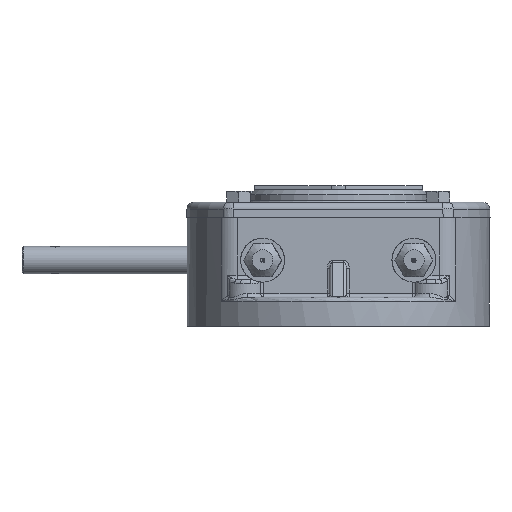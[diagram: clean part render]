
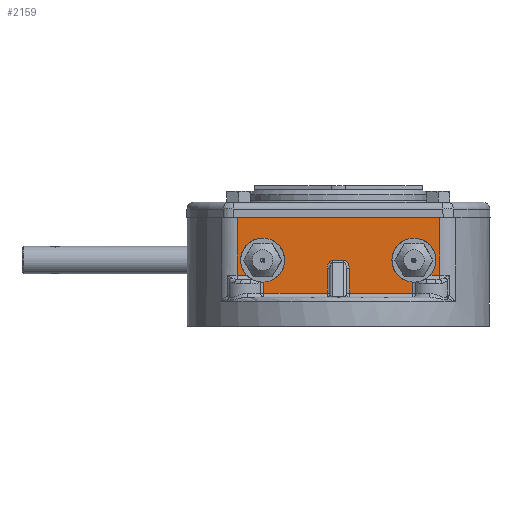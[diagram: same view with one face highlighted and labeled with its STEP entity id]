
A CAD part, left-side view. The second image highlights one B-rep face of the part: STEP entity #2159.
In plain terms, the highlighted planar face has unit normal (-1, 0, 0).
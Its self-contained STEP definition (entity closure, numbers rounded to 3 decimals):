
#2159 = ADVANCED_FACE( '', ( #5709 ), #5710, .F. );
#5709 = FACE_OUTER_BOUND( '', #13355, .T. );
#5710 = PLANE( '', #13356 );
#13355 = EDGE_LOOP( '', ( #36685, #36686, #36687, #36688, #36689, #36690, #36691, #36692, #36693, #36694, #36695, #36696, #36697, #36698, #36699, #36700 ) );
#13356 = AXIS2_PLACEMENT_3D( '', #36701, #36702, #36703 );
#36685 = ORIENTED_EDGE( '', *, *, #49871, .T. );
#36686 = ORIENTED_EDGE( '', *, *, #49137, .F. );
#36687 = ORIENTED_EDGE( '', *, *, #49872, .T. );
#36688 = ORIENTED_EDGE( '', *, *, #49873, .T. );
#36689 = ORIENTED_EDGE( '', *, *, #49874, .T. );
#36690 = ORIENTED_EDGE( '', *, *, #49875, .T. );
#36691 = ORIENTED_EDGE( '', *, *, #49876, .T. );
#36692 = ORIENTED_EDGE( '', *, *, #49877, .F. );
#36693 = ORIENTED_EDGE( '', *, *, #49878, .T. );
#36694 = ORIENTED_EDGE( '', *, *, #49293, .T. );
#36695 = ORIENTED_EDGE( '', *, *, #48950, .T. );
#36696 = ORIENTED_EDGE( '', *, *, #48973, .F. );
#36697 = ORIENTED_EDGE( '', *, *, #49879, .T. );
#36698 = ORIENTED_EDGE( '', *, *, #49880, .F. );
#36699 = ORIENTED_EDGE( '', *, *, #49881, .T. );
#36700 = ORIENTED_EDGE( '', *, *, #49882, .T. );
#36701 = CARTESIAN_POINT( '', ( -75., 80.467, 82. ) );
#36702 = DIRECTION( '', ( 1., 0., 0. ) );
#36703 = DIRECTION( '', ( 0., 0., -1. ) );
#48950 = EDGE_CURVE( '', #54770, #54768, #54771, .F. );
#48973 = EDGE_CURVE( '', #54807, #54768, #54809, .F. );
#49137 = EDGE_CURVE( '', #55099, #55100, #55101, .T. );
#49293 = EDGE_CURVE( '', #55364, #54770, #55365, .T. );
#49871 = EDGE_CURVE( '', #56345, #55100, #56346, .F. );
#49872 = EDGE_CURVE( '', #55099, #56347, #56348, .T. );
#49873 = EDGE_CURVE( '', #56347, #56349, #56350, .F. );
#49874 = EDGE_CURVE( '', #56349, #56351, #56352, .F. );
#49875 = EDGE_CURVE( '', #56351, #54373, #56353, .T. );
#49876 = EDGE_CURVE( '', #54373, #56354, #56355, .T. );
#49877 = EDGE_CURVE( '', #56356, #56354, #56357, .T. );
#49878 = EDGE_CURVE( '', #56356, #55364, #56358, .T. );
#49879 = EDGE_CURVE( '', #54807, #56359, #56360, .F. );
#49880 = EDGE_CURVE( '', #56361, #56359, #56362, .F. );
#49881 = EDGE_CURVE( '', #56361, #56363, #56364, .F. );
#49882 = EDGE_CURVE( '', #56363, #56345, #56365, .T. );
#54373 = VERTEX_POINT( '', #63013 );
#54768 = VERTEX_POINT( '', #63922 );
#54770 = VERTEX_POINT( '', #63924 );
#54771 = LINE( '', #63925, #63926 );
#54807 = VERTEX_POINT( '', #63988 );
#54809 = ELLIPSE( '', #63990, 5.657, 4. );
#55099 = VERTEX_POINT( '', #65275 );
#55100 = VERTEX_POINT( '', #65276 );
#55101 = CIRCLE( '', #65277, 16. );
#55364 = VERTEX_POINT( '', #66207 );
#55365 = LINE( '', #66208, #66209 );
#56345 = VERTEX_POINT( '', #69105 );
#56346 = LINE( '', #69106, #69107 );
#56347 = VERTEX_POINT( '', #69108 );
#56348 = LINE( '', #69109, #69110 );
#56349 = VERTEX_POINT( '', #69111 );
#56350 = LINE( '', #69112, #69113 );
#56351 = VERTEX_POINT( '', #69114 );
#56352 = LINE( '', #69115, #69116 );
#56353 = LINE( '', #69117, #69118 );
#56354 = VERTEX_POINT( '', #69119 );
#56355 = LINE( '', #69120, #69121 );
#56356 = VERTEX_POINT( '', #69122 );
#56357 = CIRCLE( '', #69123, 16. );
#56358 = LINE( '', #69124, #69125 );
#56359 = VERTEX_POINT( '', #69126 );
#56360 = LINE( '', #69127, #69128 );
#56361 = VERTEX_POINT( '', #69129 );
#56362 = ELLIPSE( '', #69130, 5.657, 4. );
#56363 = VERTEX_POINT( '', #69131 );
#56364 = LINE( '', #69132, #69133 );
#56365 = LINE( '', #69134, #69135 );
#63013 = CARTESIAN_POINT( '', ( -75., 73.655, 37. ) );
#63922 = CARTESIAN_POINT( '', ( -75., 8., 42.172 ) );
#63924 = CARTESIAN_POINT( '', ( -75., 8., 24. ) );
#63925 = CARTESIAN_POINT( '', ( -75., 8., 82. ) );
#63926 = VECTOR( '', #86723, 1000. );
#63988 = CARTESIAN_POINT( '', ( -75., 4., 47.828 ) );
#63990 = AXIS2_PLACEMENT_3D( '', #86758, #86759, #86760 );
#65275 = CARTESIAN_POINT( '', ( -75., -66.619, 37. ) );
#65276 = CARTESIAN_POINT( '', ( -75., -54.1, 32.025 ) );
#65277 = AXIS2_PLACEMENT_3D( '', #86929, #86930, #86931 );
#66207 = CARTESIAN_POINT( '', ( -75., 54.1, 24. ) );
#66208 = CARTESIAN_POINT( '', ( -75., 80.467, 24. ) );
#66209 = VECTOR( '', #87084, 1000. );
#69105 = CARTESIAN_POINT( '', ( -75., -54.1, 24. ) );
#69106 = CARTESIAN_POINT( '', ( -75., -54.1, 82. ) );
#69107 = VECTOR( '', #87712, 1000. );
#69108 = CARTESIAN_POINT( '', ( -75., -73.655, 37. ) );
#69109 = CARTESIAN_POINT( '', ( -75., -73.655, 37. ) );
#69110 = VECTOR( '', #87713, 1000. );
#69111 = CARTESIAN_POINT( '', ( -75., -73.655, 79. ) );
#69112 = CARTESIAN_POINT( '', ( -75., -73.655, 82. ) );
#69113 = VECTOR( '', #87714, 1000. );
#69114 = CARTESIAN_POINT( '', ( -75., 73.655, 79. ) );
#69115 = CARTESIAN_POINT( '', ( -75., 73.655, 79. ) );
#69116 = VECTOR( '', #87715, 1000. );
#69117 = CARTESIAN_POINT( '', ( -75., 73.655, 82. ) );
#69118 = VECTOR( '', #87716, 1000. );
#69119 = CARTESIAN_POINT( '', ( -75., 66.619, 37. ) );
#69120 = CARTESIAN_POINT( '', ( -75., 55.626, 37. ) );
#69121 = VECTOR( '', #87717, 1000. );
#69122 = CARTESIAN_POINT( '', ( -75., 54.1, 32.025 ) );
#69123 = AXIS2_PLACEMENT_3D( '', #87718, #87719, #87720 );
#69124 = CARTESIAN_POINT( '', ( -75., 54.1, 82. ) );
#69125 = VECTOR( '', #87721, 1000. );
#69126 = CARTESIAN_POINT( '', ( -75., -4., 47.828 ) );
#69127 = CARTESIAN_POINT( '', ( -75., -6., 47.828 ) );
#69128 = VECTOR( '', #87722, 1000. );
#69129 = CARTESIAN_POINT( '', ( -75., -8., 42.172 ) );
#69130 = AXIS2_PLACEMENT_3D( '', #87723, #87724, #87725 );
#69131 = CARTESIAN_POINT( '', ( -75., -8., 24. ) );
#69132 = CARTESIAN_POINT( '', ( -75., -8., 24. ) );
#69133 = VECTOR( '', #87726, 1000. );
#69134 = CARTESIAN_POINT( '', ( -75., 80.467, 24. ) );
#69135 = VECTOR( '', #87727, 1000. );
#86723 = DIRECTION( '', ( 0., 0., -1. ) );
#86758 = CARTESIAN_POINT( '', ( -75., 4., 42.172 ) );
#86759 = DIRECTION( '', ( 1., 0., 0. ) );
#86760 = DIRECTION( '', ( 0., 0., 1. ) );
#86929 = CARTESIAN_POINT( '', ( -75., -55., 48. ) );
#86930 = DIRECTION( '', ( -1., 0., 0. ) );
#86931 = DIRECTION( '', ( 0., 0., 1. ) );
#87084 = DIRECTION( '', ( 0., -1., 0. ) );
#87712 = DIRECTION( '', ( 0., 0., -1. ) );
#87713 = DIRECTION( '', ( 0., -1., 0. ) );
#87714 = DIRECTION( '', ( 0., 0., -1. ) );
#87715 = DIRECTION( '', ( 0., -1., 0. ) );
#87716 = DIRECTION( '', ( 0., 0., -1. ) );
#87717 = DIRECTION( '', ( 0., -1., 0. ) );
#87718 = CARTESIAN_POINT( '', ( -75., 55., 48. ) );
#87719 = DIRECTION( '', ( -1., 0., 0. ) );
#87720 = DIRECTION( '', ( 0., 0., 1. ) );
#87721 = DIRECTION( '', ( 0., 0., -1. ) );
#87722 = DIRECTION( '', ( 0., 1., 0. ) );
#87723 = CARTESIAN_POINT( '', ( -75., -4., 42.172 ) );
#87724 = DIRECTION( '', ( 1., 0., 0. ) );
#87725 = DIRECTION( '', ( 0., 0., -1. ) );
#87726 = DIRECTION( '', ( 0., 0., 1. ) );
#87727 = DIRECTION( '', ( 0., -1., 0. ) );
